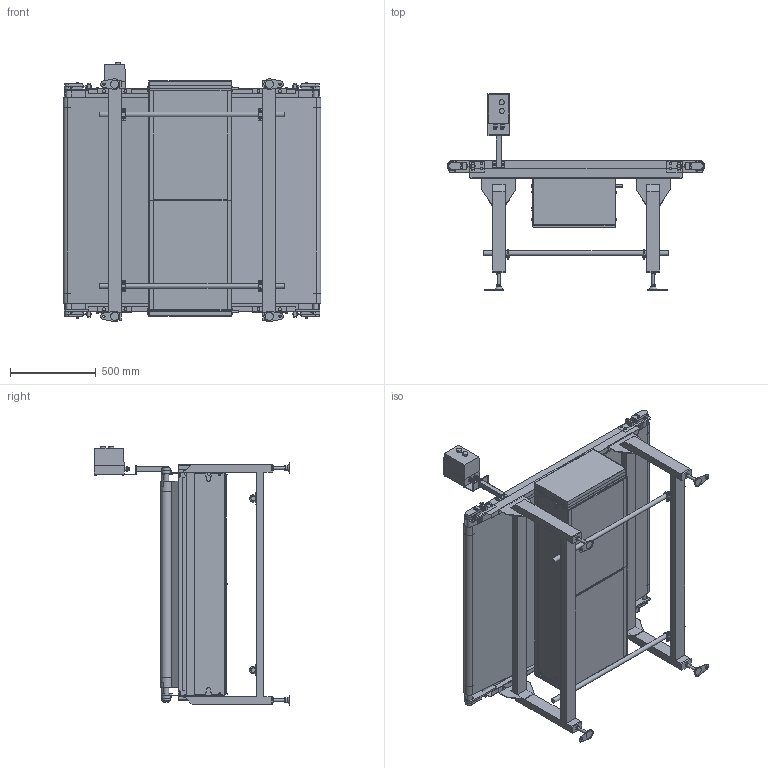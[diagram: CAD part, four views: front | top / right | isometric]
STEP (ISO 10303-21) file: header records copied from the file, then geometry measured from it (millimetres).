
FILE_DESCRIPTION( (''), '2;1');
FILE_NAME ('WEB-FBW-320-1200-150-K-40.stp','2026-06-19T10:34:40',(''),(''),'spGate 21.9.5 (****-****-****-****)','','');
FILE_SCHEMA (('AUTOMOTIVE_DESIGN'));
Length unit declared in the file: millimetre
Products named in the file (61): WEB-FBW-320-1200-150-K-40; TEMP_X_T-prt0; TEMP_X_T-prt1; TEMP_X_T-prt2; TEMP_X_T-prt3; TEMP_X_T-prt4; TEMP_X_T-prt5; TEMP_X_T-prt6; TEMP_X_T-prt7; TEMP_X_T-prt8; TEMP_X_T-prt9; TEMP_X_T-prt10; TEMP_X_T-prt11; TEMP_X_T-prt12; TEMP_X_T-prt13; TEMP_X_T-prt14; TEMP_X_T-prt15; TEMP_X_T-prt16; TEMP_X_T-prt17; TEMP_X_T-prt18; TEMP_X_T-prt19; TEMP_X_T-prt20; TEMP_X_T-prt21; TEMP_X_T-prt22; TEMP_X_T-prt23; TEMP_X_T-prt24; TEMP_X_T-prt25; TEMP_X_T-prt26; TEMP_X_T-prt27; TEMP_X_T-prt28; TEMP_X_T-prt29; TEMP_X_T-prt30; TEMP_X_T-prt31; TEMP_X_T-prt32; TEMP_X_T-prt33; TEMP_X_T-prt34; TEMP_X_T-prt35; TEMP_X_T-prt36; TEMP_X_T-prt37; TEMP_X_T-prt38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
Assembly tree (60 placements, depth 2):
  WEB-FBW-320-1200-150-K-40
    TEMP_X_T-prt0
    TEMP_X_T-prt1
    TEMP_X_T-prt2
    TEMP_X_T-prt3
    TEMP_X_T-prt4
    TEMP_X_T-prt5
    TEMP_X_T-prt6
    TEMP_X_T-prt7
    TEMP_X_T-prt8
    TEMP_X_T-prt9
    TEMP_X_T-prt10
    TEMP_X_T-prt11
    TEMP_X_T-prt12
    TEMP_X_T-prt13
    TEMP_X_T-prt14
    TEMP_X_T-prt15
    TEMP_X_T-prt16
    TEMP_X_T-prt17
    TEMP_X_T-prt18
    TEMP_X_T-prt19
    TEMP_X_T-prt20
    TEMP_X_T-prt21
    TEMP_X_T-prt22
    TEMP_X_T-prt23
    TEMP_X_T-prt24
    TEMP_X_T-prt25
    TEMP_X_T-prt26
    TEMP_X_T-prt27
    TEMP_X_T-prt28
    TEMP_X_T-prt29
    TEMP_X_T-prt30
    TEMP_X_T-prt31
    TEMP_X_T-prt32
    TEMP_X_T-prt33
    TEMP_X_T-prt34
    TEMP_X_T-prt35
    TEMP_X_T-prt36
    TEMP_X_T-prt37
    TEMP_X_T-prt38
    TEMP_X_T-prt39
    TEMP_X_T-prt40
    TEMP_X_T-prt41
    TEMP_X_T-prt42
    TEMP_X_T-prt43
    TEMP_X_T-prt44
    TEMP_X_T-prt45
    TEMP_X_T-prt46
    TEMP_X_T-prt47
    TEMP_X_T-prt48
    TEMP_X_T-prt49
    TEMP_X_T-prt50
    TEMP_X_T-prt51
    TEMP_X_T-prt52
    TEMP_X_T-prt53
    TEMP_X_T-prt54
    TEMP_X_T-prt55
    TEMP_X_T-prt56
    TEMP_X_T-prt57
    TEMP_X_T-prt58
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Bounding box: 1502.44 x 1141 x 1510.2 mm (x, y, z)
Volume: 283963957.9 mm3; surface area: 20275476.8 mm2
Topology: 60 solids, 60 shells, 1904 faces, 4576 edges, 3018 vertices
Faces by surface type: plane 1566, cylinder 266, bspline 72
Full cylindrical faces by diameter (mm): 5 x12, 5.3 x3, 6 x6, 7 x10, 8 x28, 9.2 x16, 10 x21, 12 x6, 12.2 x8, 12.5 x8, 13 x4, 15.4 x24, 16 x8, 17 x16, 19.4 x4, 20 x4, 21 x3, 27.2 x2, 28 x2, 30 x2, 32 x4, 60.5 x2
Entity records: 96242 total; most frequent: CARTESIAN_POINT 12025, DIRECTION 9239, ORIENTED_EDGE 9152, COLOUR_RGB 6540, PRESENTATION_STYLE_ASSIGNMENT 6540, STYLED_ITEM 6540, EDGE_CURVE 4576, DRAUGHTING_PRE_DEFINED_CURVE_FONT 4576
